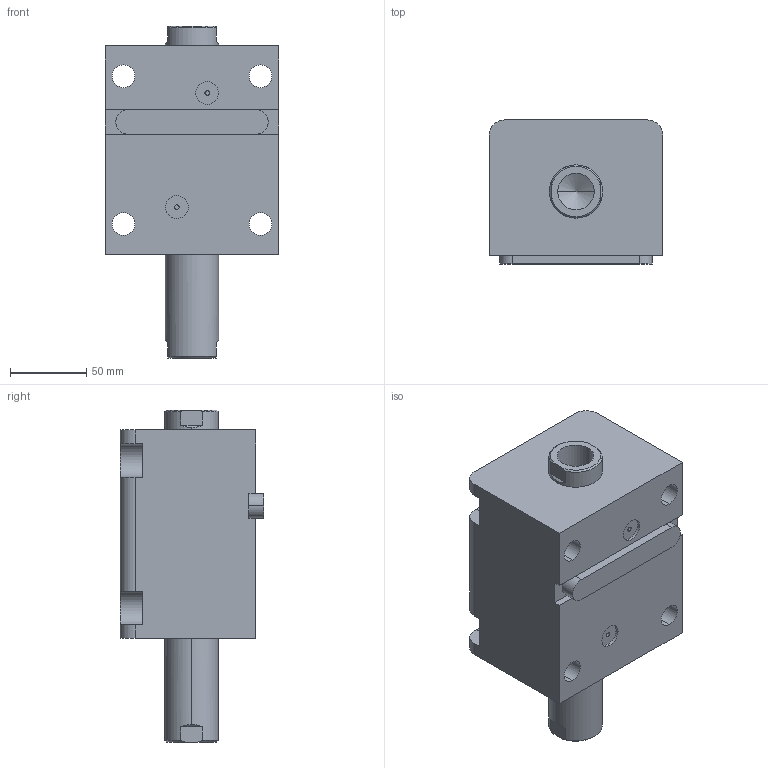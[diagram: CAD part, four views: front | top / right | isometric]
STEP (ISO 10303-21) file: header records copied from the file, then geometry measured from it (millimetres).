
FILE_DESCRIPTION (( 'STEP AP203' ), '1' );
FILE_NAME ('HTB-LWM63-55N.STEP', '2020-12-25T03:48:24', ( '微软用户' ), ( '微软中国' ), 'SwSTEP 2.0', 'SolidWorks 2012', '' );
FILE_SCHEMA (( 'CONFIG_CONTROL_DESIGN' ));
Length unit declared in the file: millimetre
Products named in the file (4): HTB-LWM63-55掛极; HTB-LWM63-55N活塞杆; HTB-LWM63-瑩; HTB-LWM63-55N
Assembly tree (3 placements, depth 2):
  HTB-LWM63-55N
    HTB-LWM63-55掛极
    HTB-LWM63-55N活塞杆
    HTB-LWM63-瑩
Bounding box: 114 x 94.5 x 218 mm (x, y, z)
Volume: 1235960.7 mm3; surface area: 157412.6 mm2
Topology: 3 solids, 3 shells, 105 faces, 261 edges, 168 vertices
Faces by surface type: cylinder 45, plane 44, torus 8, cone 8
Entity records: 3571 total; most frequent: CARTESIAN_POINT 592, DIRECTION 573, ORIENTED_EDGE 514, EDGE_CURVE 257, AXIS2_PLACEMENT_3D 221, VERTEX_POINT 168, VECTOR 131, LINE 131
